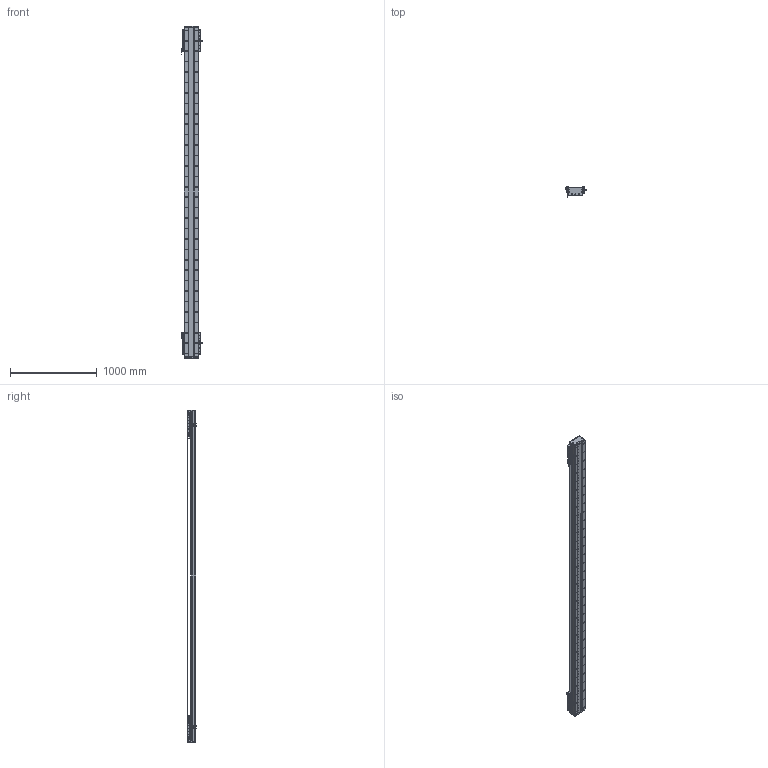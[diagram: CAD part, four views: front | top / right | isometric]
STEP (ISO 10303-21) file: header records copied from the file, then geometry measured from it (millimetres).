
FILE_DESCRIPTION (( 'STEP AP203' ), '1' );
FILE_NAME ('DA-C165-2-C3-T3200-C010-0.2 直线电机.STEP', '2023-06-13T09:10:14', ( '微软用户' ), ( '微软中国' ), 'SwSTEP 2.0', 'SolidWorks 2019', '' );
FILE_SCHEMA (( 'CONFIG_CONTROL_DESIGN' ));
Products named in the file (22): 珨极趙賑雄怢啣C3-wf; DA-C165-2-C3-T3200-C010-0.2 眻盄萇儂; IU-CU165-L 菁釱絳寢; 葩璃 CKM03-W075-C1C2-TP-3.0^DA-C165-C3-T-C010-0.2-N 眻盄萇儂; 复件 DA165-GD-1860-002-00 钢带盖板^复件 CU165钢带组件_DA-C165-C3-T-C010-0.2-N 直线电机; 葩璃 PM-T45^DA-C165-C3-T-C010-0.2-N 眻盄萇儂; 复件 CU165钢带组件^DA-C165-C3-T-C010-0.2-N 直线电机; 复件 DA165-GD-DG-H-00 端盖^复件 CU165钢带组件_DA-C165-C3-T-C010-0.2-N 直线电机; 葩璃 PM-Y45^DA-C165-C3-T-C010-0.2-N 眻盄萇儂; 葩璃 DA95-GT-T-00^IU-CU165-L 菁釱絳寢_T; 葩璃 CKM01-W075-TRL^DA-C165-C3-T-C010-0.2-N 眻盄萇儂; 复件 XD-U-02L 磁栅尺^DA-C165-C3-T-C010-0.2-N 直线电机_T; 复件 DMA-010-0.2 读数头^DA-C165-C3-T-C010-0.2-N 直线电机; 复件 DA126-GYP-ZJ-00 中间光电感应片^DA-C165-C3-T-C010-0.2-N 直线电机; 复件 六角薄螺母 M3^DA-C165-C3-T-C010-0.2-N 直线电机_GB_FASTENER_NUT_STNAB M3-C; 复件 DA165-GDYK-00 钢带压块^复件 CU165钢带组件_DA-C165-C3-T-C010-0.2-N 直线电机; 复件 DKW-HXJ-JY-00 缓冲橡胶^DA-C165-C3-T-C010-0.2-N 直线电机; 复件 DA95-HXJ-00 缓冲橡胶^DA-C165-C3-T-C010-0.2-N 直线电机; 复件 CU165 底座^IU-CU165-L 底座导轨_L3780; 复件 66338-1000-006-00 光电感应块^DA-C165-C3-T-C010-0.2-N 直线电机; 复件 DA165-GYP-00 光电感应片^DA-C165-C3-T-C010-0.2-N 直线电机; 复件 DA165-GDLK-00 钢带拉块^复件 CU165钢带组件_DA-C165-C3-T-C010-0.2-N 直线电机
Assembly tree (45 placements, depth 3):
  DA-C165-2-C3-T3200-C010-0.2 眻盄萇儂
    IU-CU165-L 菁釱絳寢
      复件 CU165 底座^IU-CU165-L 底座导轨_L3780
      葩璃 DA95-GT-T-00^IU-CU165-L 菁釱絳寢_T  x4
    复件 XD-U-02L 磁栅尺^DA-C165-C3-T-C010-0.2-N 直线电机_T
    葩璃 PM-T45^DA-C165-C3-T-C010-0.2-N 眻盄萇儂  x4
    葩璃 CKM01-W075-TRL^DA-C165-C3-T-C010-0.2-N 眻盄萇儂
    复件 CU165钢带组件^DA-C165-C3-T-C010-0.2-N 直线电机
      复件 DA165-GD-DG-H-00 端盖^复件 CU165钢带组件_DA-C165-C3-T-C010-0.2-N 直线电机  x2
      复件 DA165-GDYK-00 钢带压块^复件 CU165钢带组件_DA-C165-C3-T-C010-0.2-N 直线电机  x2
      复件 DA165-GD-1860-002-00 钢带盖板^复件 CU165钢带组件_DA-C165-C3-T-C010-0.2-N 直线电机
      复件 DA165-GDLK-00 钢带拉块^复件 CU165钢带组件_DA-C165-C3-T-C010-0.2-N 直线电机  x2
    复件 DA95-HXJ-00 缓冲橡胶^DA-C165-C3-T-C010-0.2-N 直线电机  x4
    复件 DMA-010-0.2 读数头^DA-C165-C3-T-C010-0.2-N 直线电机  x2
    复件 DA165-GYP-00 光电感应片^DA-C165-C3-T-C010-0.2-N 直线电机  x2
    复件 66338-1000-006-00 光电感应块^DA-C165-C3-T-C010-0.2-N 直线电机
    葩璃 PM-Y45^DA-C165-C3-T-C010-0.2-N 眻盄萇儂
    复件 DA126-GYP-ZJ-00 中间光电感应片^DA-C165-C3-T-C010-0.2-N 直线电机
    葩璃 CKM03-W075-C1C2-TP-3.0^DA-C165-C3-T-C010-0.2-N 眻盄萇儂  x2
    复件 DKW-HXJ-JY-00 缓冲橡胶^DA-C165-C3-T-C010-0.2-N 直线电机  x2
    复件 六角薄螺母 M3^DA-C165-C3-T-C010-0.2-N 直线电机_GB_FASTENER_NUT_STNAB M3-C  x8
    珨极趙賑雄怢啣C3-wf  x2
Bounding box: 247.2 x 111.45 x 3820 mm (x, y, z)
Volume: 22955955.3 mm3; surface area: 6702070 mm2
Topology: 121 solids, 221 shells, 7165 faces, 20186 edges, 12676 vertices
Faces by surface type: cylinder 4038, plane 2059, cone 980, torus 80, sphere 8
Entity records: 178954 total; most frequent: CARTESIAN_POINT 50609, ORIENTED_EDGE 26956, DIRECTION 25642, EDGE_CURVE 13478, AXIS2_PLACEMENT_3D 9851, VERTEX_POINT 8830, EDGE_LOOP 6158, VECTOR 5940
